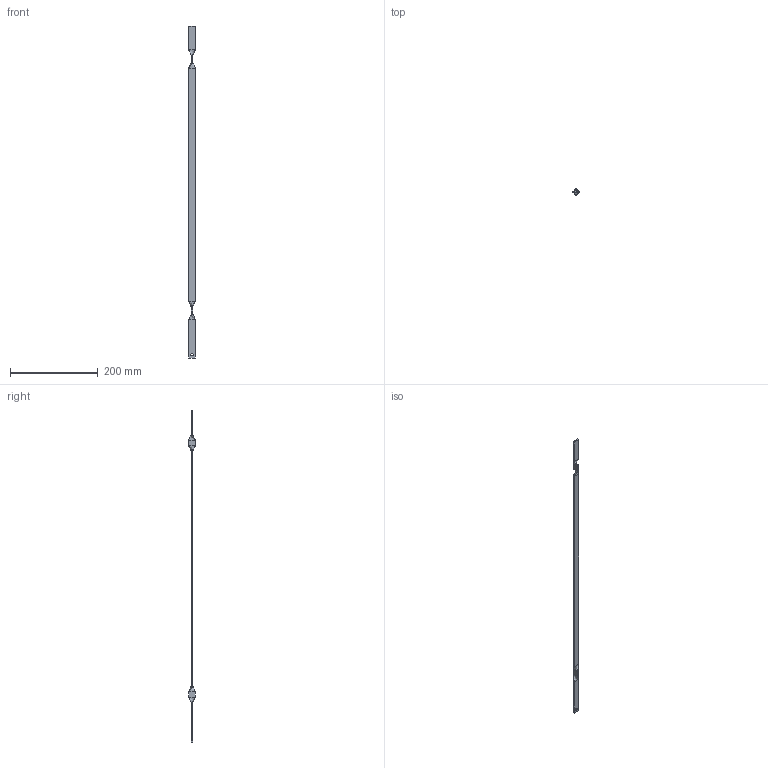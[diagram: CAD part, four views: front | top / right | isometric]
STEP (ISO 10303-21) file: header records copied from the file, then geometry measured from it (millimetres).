
FILE_DESCRIPTION (( 'STEP AP214' ), '1' );
FILE_NAME ('P290-751.STEP', '2016-08-18T09:26:33', ( 'RST-Dolba' ), ( '' ), 'SwSTEP 2.0', 'SolidWorks 2015', '' );
FILE_SCHEMA (( 'AUTOMOTIVE_DESIGN' ));
Length unit declared in the file: millimetre
Products named in the file (1): P290-751
Bounding box: 14 x 14 x 758.5 mm (x, y, z)
Volume: 31154.1 mm3; surface area: 25698.6 mm2
Topology: 1 solids, 1 shells, 40 faces, 82 edges, 44 vertices
Faces by surface type: plane 22, bspline 16, cylinder 2
Entity records: 1304 total; most frequent: CARTESIAN_POINT 519, ORIENTED_EDGE 164, DIRECTION 120, EDGE_CURVE 82, LINE 62, VECTOR 62, VERTEX_POINT 44, EDGE_LOOP 42
